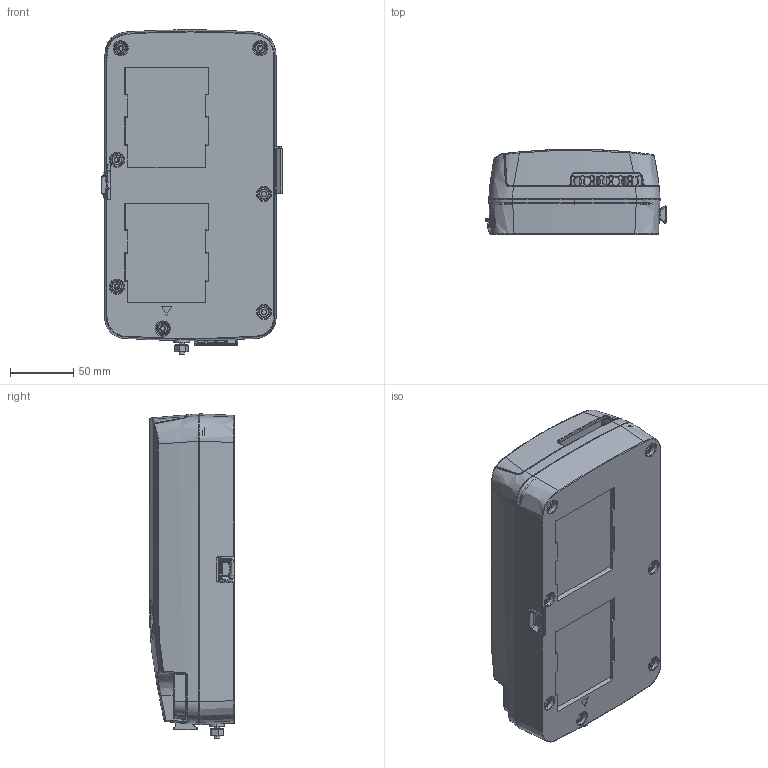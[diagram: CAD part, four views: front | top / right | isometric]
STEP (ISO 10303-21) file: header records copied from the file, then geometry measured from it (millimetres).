
FILE_DESCRIPTION (( 'STEP AP203' ), '1' );
FILE_NAME ('3D_TC28.STEP', '2022-10-20T10:57:23', ( '' ), ( '' ), 'SwSTEP 2.0', 'SolidWorks 2015', '' );
FILE_SCHEMA (( 'CONFIG_CONTROL_DESIGN' ));
Length unit declared in the file: inch
Products named in the file (1): 3D_TC28
Bounding box: 143.11 x 67 x 255.69 mm (x, y, z)
Volume: 420555 mm3; surface area: 372173.7 mm2
Topology: 8 solids, 8 shells, 3701 faces, 9652 edges, 6008 vertices
Faces by surface type: plane 1501, cylinder 1127, bspline 525, torus 332, cone 162, sphere 54
Entity records: 137056 total; most frequent: CARTESIAN_POINT 50675, ORIENTED_EDGE 19176, DIRECTION 16814, EDGE_CURVE 9588, AXIS2_PLACEMENT_3D 6026, VERTEX_POINT 6003, LINE 4762, VECTOR 4762
